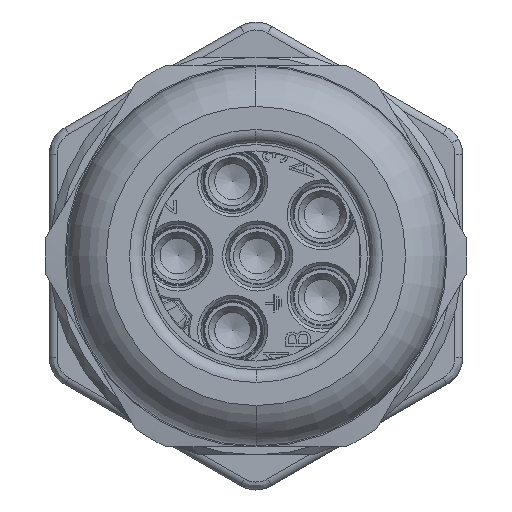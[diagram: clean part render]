
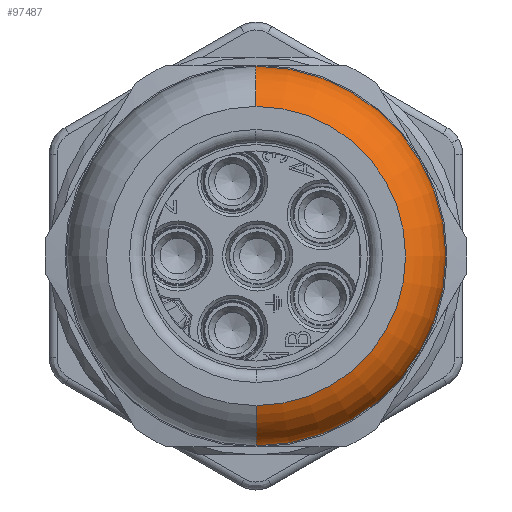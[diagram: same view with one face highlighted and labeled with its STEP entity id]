
A CAD part, left-side view. The second image highlights one B-rep face of the part: STEP entity #97487.
In plain terms, the highlighted toroidal (fillet/blend) face has major radius 7.93 mm and minor radius 4 mm.
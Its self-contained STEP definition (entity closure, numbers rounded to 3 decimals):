
#3459 = EDGE_CURVE ( 'NONE', #77962, #109707, #84561, .T. ) ;
#4720 = CARTESIAN_POINT ( 'NONE',  ( 420.439, 22.191, -11.935 ) ) ;
#5120 = CARTESIAN_POINT ( 'NONE',  ( 417.11, 22.191, 9.4 ) ) ;
#5322 = CARTESIAN_POINT ( 'NONE',  ( 417.272, 22.191, -9.808 ) ) ;
#6937 = CARTESIAN_POINT ( 'NONE',  ( 421.319, 22.191, 11.9 ) ) ;
#17421 = DIRECTION ( 'NONE',  ( 0., 0., -1. ) ) ;
#17440 = CARTESIAN_POINT ( 'NONE',  ( 420.884, 22.191, 11.954 ) ) ;
#24328 = CARTESIAN_POINT ( 'NONE',  ( 419.58, 22.191, 11.755 ) ) ;
#25423 = DIRECTION ( 'NONE',  ( 0., 1., 0. ) ) ;
#28284 = CIRCLE ( 'NONE', #97740, 9.4 ) ;
#32055 = CARTESIAN_POINT ( 'NONE',  ( 417.501, 22.191, -10.19 ) ) ;
#32435 = CARTESIAN_POINT ( 'NONE',  ( 417.11, 22.191, 0. ) ) ;
#33697 = CARTESIAN_POINT ( 'NONE',  ( 418.07, 22.191, 10.858 ) ) ;
#37631 = ORIENTED_EDGE ( 'NONE', *, *, #3459, .F. ) ;
#42989 = CIRCLE ( 'NONE', #76724, 11.9 ) ;
#43043 = CARTESIAN_POINT ( 'NONE',  ( 417.272, 22.191, 9.809 ) ) ;
#50207 = EDGE_CURVE ( 'NONE', #77962, #112098, #28284, .T. ) ;
#52232 = CARTESIAN_POINT ( 'NONE',  ( 420.83, 22.191, 0. ) ) ;
#58756 = CARTESIAN_POINT ( 'NONE',  ( 421.319, 22.191, 11.9 ) ) ;
#63118 = CARTESIAN_POINT ( 'NONE',  ( 417.11, 22.191, -9.4 ) ) ;
#71580 = CARTESIAN_POINT ( 'NONE',  ( 418.41, 22.191, 11.145 ) ) ;
#71783 = CARTESIAN_POINT ( 'NONE',  ( 420.884, 22.191, -11.954 ) ) ;
#72061 = DIRECTION ( 'NONE',  ( 1., 0., 0. ) ) ;
#76724 = AXIS2_PLACEMENT_3D ( 'NONE', #76847, #95456, #113410 ) ;
#76847 = CARTESIAN_POINT ( 'NONE',  ( 421.319, 22.191, 0. ) ) ;
#77341 = ORIENTED_EDGE ( 'NONE', *, *, #98396, .T. ) ;
#77962 = VERTEX_POINT ( 'NONE', #121895 ) ;
#79472 = EDGE_CURVE ( 'NONE', #109707, #97332, #42989, .T. ) ;
#79565 = CARTESIAN_POINT ( 'NONE',  ( 421.319, 22.191, -11.9 ) ) ;
#80499 = CARTESIAN_POINT ( 'NONE',  ( 417.11, 22.191, -9.4 ) ) ;
#83318 = CARTESIAN_POINT ( 'NONE',  ( 420.439, 22.191, 11.935 ) ) ;
#84326 = ORIENTED_EDGE ( 'NONE', *, *, #79472, .F. ) ;
#84561 = B_SPLINE_CURVE_WITH_KNOTS ( 'NONE', 3,
 ( #5120, #43043, #118725, #33697, #71580, #109372, #24328, #83318, #17440, #6937 ),
 .UNSPECIFIED., .F., .F.,
 ( 4, 2, 2, 2, 4 ),
 ( 0., 0.329, 0.658, 0.988, 1.317 ),
 .UNSPECIFIED. ) ;
#86309 = EDGE_LOOP ( 'NONE', ( #104411, #77341, #84326, #37631 ) ) ;
#88569 = CARTESIAN_POINT ( 'NONE',  ( 419.165, 22.191, -11.593 ) ) ;
#94463 = TOROIDAL_SURFACE ( 'NONE', #102424, 7.93, 4. ) ;
#95456 = DIRECTION ( 'NONE',  ( 1., 0., 0. ) ) ;
#97332 = VERTEX_POINT ( 'NONE', #79565 ) ;
#97487 = ADVANCED_FACE ( 'NONE', ( #100589 ), #94463, .T. ) ;
#97740 = AXIS2_PLACEMENT_3D ( 'NONE', #32435, #99489, #17421 ) ;
#98109 = B_SPLINE_CURVE_WITH_KNOTS ( 'NONE', 3,
 ( #80499, #5322, #32055, #99716, #100313, #88569, #117711, #4720, #71783, #109582 ),
 .UNSPECIFIED., .F., .F.,
 ( 4, 2, 2, 2, 4 ),
 ( 0., 0.329, 0.658, 0.988, 1.317 ),
 .UNSPECIFIED. ) ;
#98396 = EDGE_CURVE ( 'NONE', #112098, #97332, #98109, .T. ) ;
#99489 = DIRECTION ( 'NONE',  ( 1., 0., 0. ) ) ;
#99716 = CARTESIAN_POINT ( 'NONE',  ( 418.07, 22.191, -10.858 ) ) ;
#100313 = CARTESIAN_POINT ( 'NONE',  ( 418.41, 22.191, -11.145 ) ) ;
#100589 = FACE_OUTER_BOUND ( 'NONE', #86309, .T. ) ;
#102424 = AXIS2_PLACEMENT_3D ( 'NONE', #52232, #72061, #25423 ) ;
#104411 = ORIENTED_EDGE ( 'NONE', *, *, #50207, .T. ) ;
#109372 = CARTESIAN_POINT ( 'NONE',  ( 419.165, 22.191, 11.593 ) ) ;
#109582 = CARTESIAN_POINT ( 'NONE',  ( 421.319, 22.191, -11.9 ) ) ;
#109707 = VERTEX_POINT ( 'NONE', #58756 ) ;
#112098 = VERTEX_POINT ( 'NONE', #63118 ) ;
#113410 = DIRECTION ( 'NONE',  ( 0., 0., -1. ) ) ;
#117711 = CARTESIAN_POINT ( 'NONE',  ( 419.58, 22.191, -11.755 ) ) ;
#118725 = CARTESIAN_POINT ( 'NONE',  ( 417.501, 22.191, 10.19 ) ) ;
#121895 = CARTESIAN_POINT ( 'NONE',  ( 417.11, 22.191, 9.4 ) ) ;
